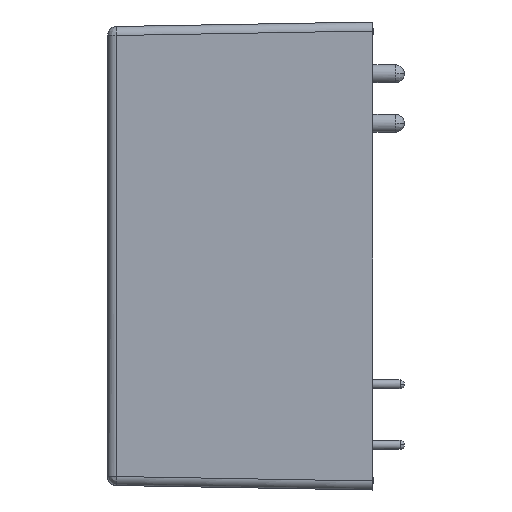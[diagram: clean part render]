
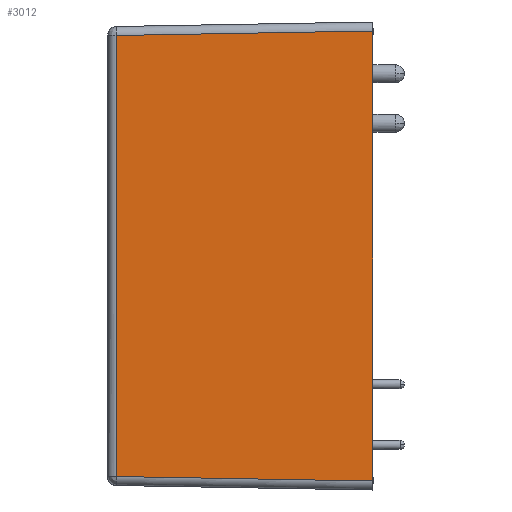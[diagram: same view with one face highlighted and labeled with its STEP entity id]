
A CAD part, left-side view. The second image highlights one B-rep face of the part: STEP entity #3012.
In plain terms, the highlighted planar face has unit normal (-1, 0.018, 0).
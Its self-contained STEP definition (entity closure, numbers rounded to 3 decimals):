
#386 = LINE ( 'NONE', #711, #971 ) ;
#499 = CARTESIAN_POINT ( 'NONE',  ( -43.499, 0., -0.001 ) ) ;
#537 = VERTEX_POINT ( 'NONE', #3207 ) ;
#711 = CARTESIAN_POINT ( 'NONE',  ( -43.001, 28.517, -0.001 ) ) ;
#887 = CARTESIAN_POINT ( 'NONE',  ( -43.167, 19.011, -24.668 ) ) ;
#971 = VECTOR ( 'NONE', #1435, 1000. ) ;
#1139 = DIRECTION ( 'NONE',  ( 0., 0., 1. ) ) ;
#1143 = CARTESIAN_POINT ( 'NONE',  ( -43.001, 28.517, -24.502 ) ) ;
#1379 = CARTESIAN_POINT ( 'NONE',  ( -43.001, 28.517, -24.502 ) ) ;
#1435 = DIRECTION ( 'NONE',  ( 0., 0., 1. ) ) ;
#1587 = LINE ( 'NONE', #499, #3740 ) ;
#1820 = VERTEX_POINT ( 'NONE', #4180 ) ;
#1852 = DIRECTION ( 'NONE',  ( 0.017, 1., 0. ) ) ;
#1894 = DIRECTION ( 'NONE',  ( 1., -0.017, 0. ) ) ;
#1989 = CARTESIAN_POINT ( 'NONE',  ( -43.001, 28.517, 24.501 ) ) ;
#2008 = VERTEX_POINT ( 'NONE', #1379 ) ;
#2165 = ORIENTED_EDGE ( 'NONE', *, *, #4574, .F. ) ;
#2267 = CARTESIAN_POINT ( 'NONE',  ( -43.499, 0., -25. ) ) ;
#2349 = EDGE_LOOP ( 'NONE', ( #3411, #2165, #2365, #3220 ) ) ;
#2365 = ORIENTED_EDGE ( 'NONE', *, *, #4192, .F. ) ;
#2559 = CARTESIAN_POINT ( 'NONE',  ( -43.499, 0., -25. ) ) ;
#2588 = AXIS2_PLACEMENT_3D ( 'NONE', #3665, #1894, #1852 ) ;
#2645 = CARTESIAN_POINT ( 'NONE',  ( -43.333, 9.506, -24.834 ) ) ;
#2687 = LINE ( 'NONE', #1989, #3929 ) ;
#2717 = EDGE_CURVE ( 'NONE', #1820, #537, #2687, .T. ) ;
#3012 = ADVANCED_FACE ( 'NONE', ( #3970 ), #4339, .F. ) ;
#3207 = CARTESIAN_POINT ( 'NONE',  ( -43.499, 0., 24.999 ) ) ;
#3220 = ORIENTED_EDGE ( 'NONE', *, *, #4016, .T. ) ;
#3411 = ORIENTED_EDGE ( 'NONE', *, *, #2717, .F. ) ;
#3665 = CARTESIAN_POINT ( 'NONE',  ( -43.25, 14.258, -0.001 ) ) ;
#3740 = VECTOR ( 'NONE', #1139, 1000. ) ;
#3754 = DIRECTION ( 'NONE',  ( -0.017, -1., 0.017 ) ) ;
#3929 = VECTOR ( 'NONE', #3754, 1000. ) ;
#3970 = FACE_OUTER_BOUND ( 'NONE', #2349, .T. ) ;
#4016 = EDGE_CURVE ( 'NONE', #4200, #537, #1587, .T. ) ;
#4180 = CARTESIAN_POINT ( 'NONE',  ( -43.001, 28.517, 24.501 ) ) ;
#4192 = EDGE_CURVE ( 'NONE', #4200, #2008, #4490, .T. ) ;
#4200 = VERTEX_POINT ( 'NONE', #2559 ) ;
#4339 = PLANE ( 'NONE',  #2588 ) ;
#4490 = B_SPLINE_CURVE_WITH_KNOTS ( 'NONE', 3,
 ( #2267, #2645, #887, #1143 ),
 .UNSPECIFIED., .F., .F.,
 ( 4, 4 ),
 ( 0., 1. ),
 .UNSPECIFIED. ) ;
#4574 = EDGE_CURVE ( 'NONE', #2008, #1820, #386, .T. ) ;
